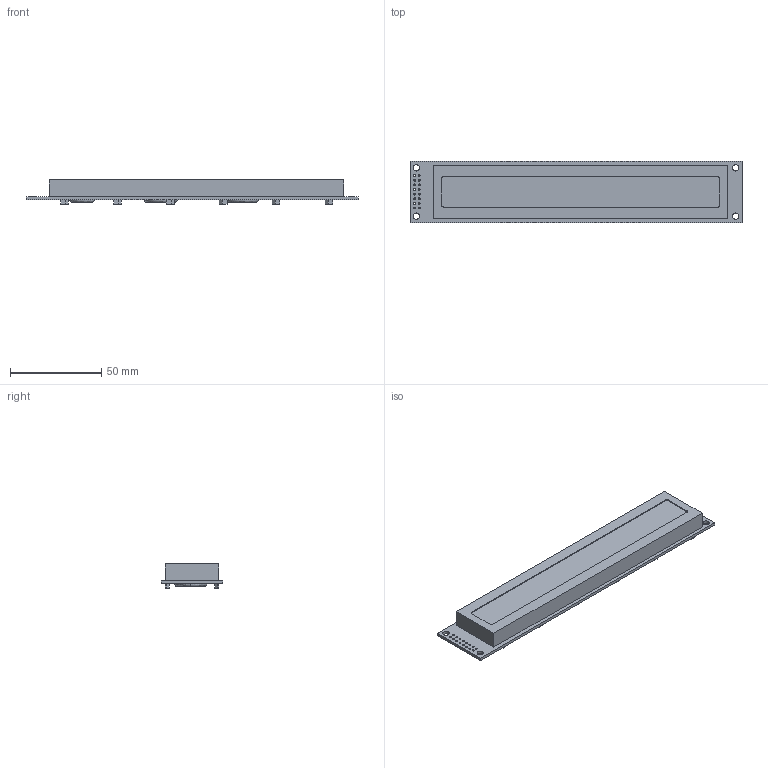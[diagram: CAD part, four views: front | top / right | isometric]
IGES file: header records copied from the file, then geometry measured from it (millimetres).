
Start section: SolidWorks IGES file using analytic representation for surfaces
Global section: file name: D:\项目开发\LCM\4002A\4002A1\3D\LCM4002A1.IGS,   ; native system: SolidWorks 2016; preprocessor: SolidWorks 2016; author: qiu; date: 191030.101211; units: millimetre
Bounding box: 182 x 33.5 x 13.4 mm (x, y, z)
Surface area: 17092 mm2 (no closed solid volume)
Topology: 0 solids, 0 shells, 153 faces, 1728 edges, 1728 vertices
Faces by surface type: bspline 109, revolution 44
